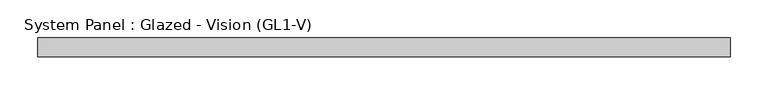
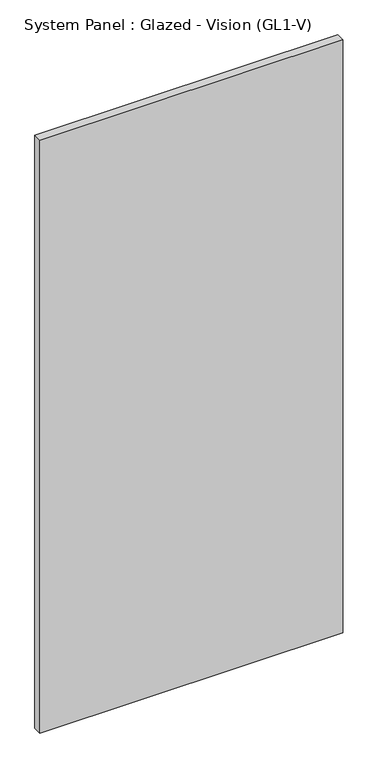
"""IFC4 building model written with IfcOpenShell, lengths in millimetres: plate geometry, System Panel : Glazed - Vision (GL1-V)."""

from ifc_helpers import new_model, si_unit, origin, origin_with_axes, place, context, project, spatial, polyline, outline, extrude, source, transform, mapped, element, save


def system_panel_glazed_vision_gl1_v_94533ca8(model_context):
    return source(origin(), model_context, "Body", "SweptSolid", [
        extrude(outline(polyline([(460.375, -25.4), (-460.375, -25.4), (-460.375, 0.0), (460.375, 0.0), (460.375, -25.4)])), origin_with_axes(), (0.0, 0.0, 1.0), 1904.999999),
    ])


if __name__ == "__main__":
    model = new_model("IFC4")
    model_context = context("Model", 3, world=origin())
    ifc_project = project(units=[si_unit("LENGTHUNIT", "METRE", prefix="MILLI")], contexts=[model_context])
    site = spatial("IfcSite", under=ifc_project)
    building = spatial("IfcBuilding", under=site)
    placement = place(None, origin())
    system_panel_glazed_vision_gl1_v_shape = system_panel_glazed_vision_gl1_v_94533ca8(model_context)
    element("IfcPlate", 1, ObjectType="System Panel : Glazed - Vision (GL1-V)", at=placement, inside=building, context=model_context, shape_type="MappedRepresentation", body=[
        mapped(system_panel_glazed_vision_gl1_v_shape, transform((0.0, 0.0, 0.0), x_axis=(1.0, 0.0, 0.0), y_axis=(0.0, 1.0, 0.0), z_axis=(0.0, 0.0, 1.0))),
    ])
    save(model, "model.ifc")
